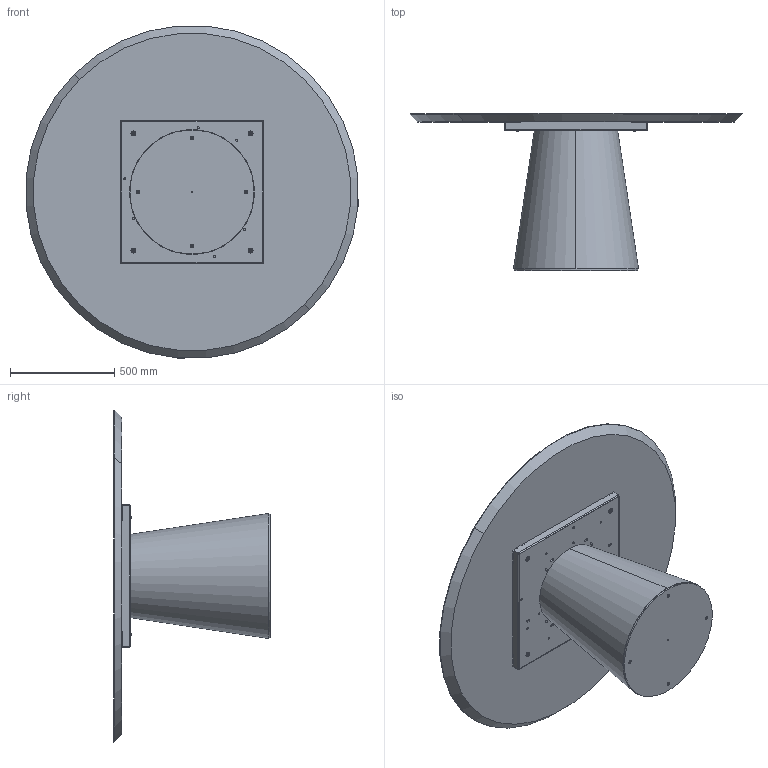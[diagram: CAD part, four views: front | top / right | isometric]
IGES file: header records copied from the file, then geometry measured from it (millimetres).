
Start section: SolidWorks IGES file using analytic representation for surfaces
Global section: file name: Y:\eforma\TECNICO\SOLIDWORKS\E-FORMA\1-TAVOLI\TEO\08 modelli 3D web\TO08W_Teo_d.160_Wood.IGS; native system: SolidWorks 2022; preprocessor: SolidWorks 2022; author: eforma.tech; date: 240802.112346; units: millimetre
Bounding box: 1593.91 x 753.19 x 1593.91 mm (x, y, z)
Volume: 107281617.2 mm3; surface area: 8539824.2 mm2
Topology: 20 solids, 20 shells, 806 faces, 2014 edges, 1238 vertices
Faces by surface type: revolution 436, plane 370
